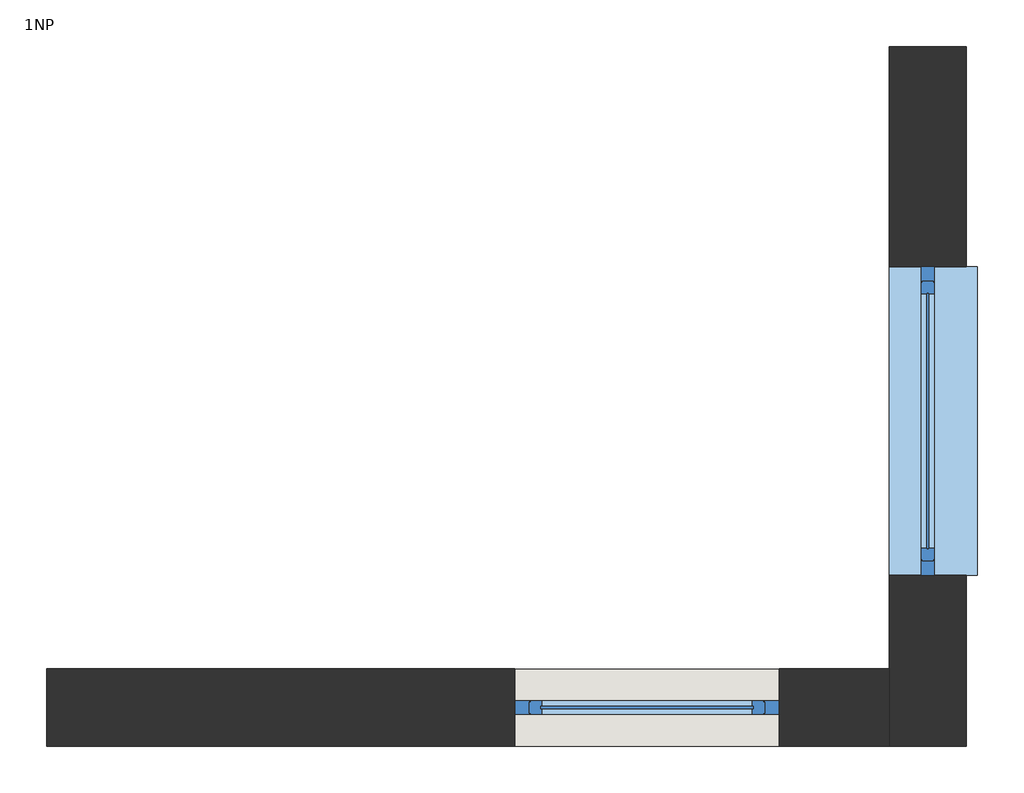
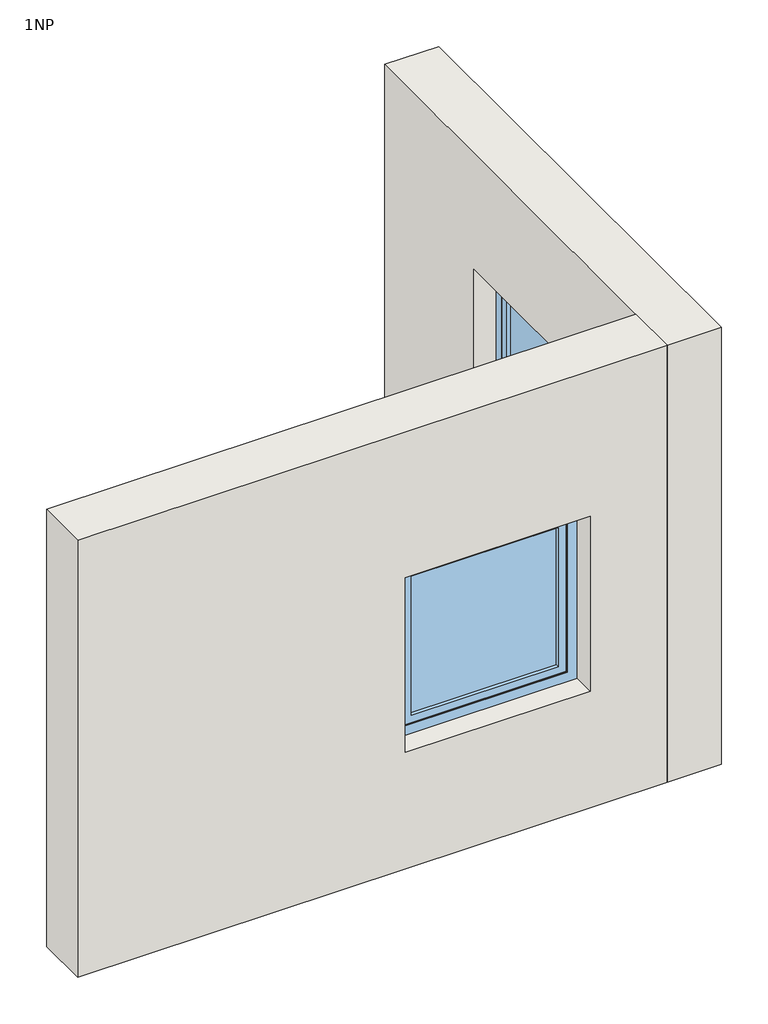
# One storey: 2 walls, 2 windows.
"""IFC4 building model written with IfcOpenShell, lengths in millimetres."""

import ifcopenshell
import ifcopenshell.guid

model = None  # the IFC model being written
_history = None  # IfcOwnerHistory: only IFC2X3 demands one
_inside = {}  # id of a spatial element -> (the spatial element, [elements in it])
_under = {}  # id of a project, library or spatial element -> (it, [spatial elements below it])
_declared = {}  # id of a project -> (the project, [libraries it declares])
_typed = {}  # id of a type object -> (the type object, [elements of that type])
_made_of = {}  # id of a material, layer set ... -> (it, [elements and type objects made of it])


def new_model(schema):
    """Start an empty IFC model of exactly this schema.

    Asked for "IFC4X3", IfcOpenShell would pick the latest addendum, in which some entities
    have other attributes; the version numbers below select the first issue.
    IFC2X3 requires an IfcOwnerHistory on every rooted entity: one is made here for all.
    """
    global model, _history
    if schema == "IFC4X3":
        model = ifcopenshell.file(schema_version=(4, 3, 0, 0))
    else:
        model = ifcopenshell.file(schema=schema)
    _inside.clear()
    _under.clear()
    _declared.clear()
    _typed.clear()
    _made_of.clear()
    _history = None
    if model.schema == "IFC2X3":
        org = make("IfcOrganization", Name="unknown")
        user = make(
            "IfcPersonAndOrganization",
            ThePerson=make("IfcPerson", FamilyName="unknown"),
            TheOrganization=org,
        )
        app = make(
            "IfcApplication",
            ApplicationDeveloper=org,
            Version="unknown",
            ApplicationFullName="unknown",
            ApplicationIdentifier="unknown",
        )
        _history = make(
            "IfcOwnerHistory",
            OwningUser=user,
            OwningApplication=app,
            ChangeAction="ADDED",
            CreationDate=0,
        )
    return model


def make(cls, **values):
    """One entity of the class cls with the attributes given. An attribute that is None is left unset."""
    return model.create_entity(
        cls, **{name: value for name, value in values.items() if value is not None}
    )


def rooted(cls, **values):
    """An entity with a GlobalId (a new one), such as an element, a storey or a relation."""
    return make(cls, GlobalId=ifcopenshell.guid.new(), OwnerHistory=_history, **values)


def si_unit(unit_type, name, prefix=None):
    """IfcSIUnit, for example si_unit("LENGTHUNIT", "METRE", prefix="MILLI")."""
    return make("IfcSIUnit", UnitType=unit_type, Prefix=prefix, Name=name)


def assignment(units):
    """IfcUnitAssignment: the units of a project."""
    return None if units is None else make("IfcUnitAssignment", Units=units)


def point(xyz):
    """IfcCartesianPoint."""
    return None if xyz is None else make("IfcCartesianPoint", Coordinates=xyz)


def direction(xyz):
    """IfcDirection."""
    return None if xyz is None else make("IfcDirection", DirectionRatios=xyz)


def frame(location, z_axis=None, x_axis=None):
    """IfcAxis2Placement3D, a coordinate frame: its origin and axes. An axis left out is left unset."""
    return make(
        "IfcAxis2Placement3D",
        Location=point(location),
        Axis=direction(z_axis),
        RefDirection=direction(x_axis),
    )


def origin():
    """The frame at (0, 0, 0) with its axes left unset."""
    return frame((0.0, 0.0, 0.0))


def place(relative_to, where):
    """IfcLocalPlacement: puts the frame where relative to a parent placement (None: the world)."""
    return make(
        "IfcLocalPlacement", PlacementRelTo=relative_to, RelativePlacement=where
    )


def context(
    kind, dimensions, precision=None, world=None, true_north=None, identifier=None
):
    """IfcGeometricRepresentationContext, for example the 3D "Model" context."""
    return make(
        "IfcGeometricRepresentationContext",
        ContextIdentifier=identifier,
        ContextType=kind,
        CoordinateSpaceDimension=dimensions,
        Precision=precision,
        WorldCoordinateSystem=world,
        TrueNorth=true_north,
    )


def project(units=None, contexts=None):
    """IfcProject with its units and contexts."""
    return rooted(
        "IfcProject",
        Name="project",
        RepresentationContexts=contexts,
        UnitsInContext=assignment(units),
    )


def spatial(cls, under=None, at=None, **own):
    """A site, building, storey or space (cls), placed at a placement, below another one or the project."""
    s = rooted(cls, ObjectPlacement=at, **own)
    if under is not None:
        _under.setdefault(under.id(), (under, []))[1].append(s)
    return s


def polyline(points):
    """IfcPolyline through the points."""
    return make("IfcPolyline", Points=[point(p) for p in points])


def outline(outer, holes=None, kind="AREA"):
    """IfcArbitraryClosedProfileDef: a profile drawn as a closed curve; with holes, ...WithVoids."""
    if holes is None:
        return make("IfcArbitraryClosedProfileDef", ProfileType=kind, OuterCurve=outer)
    return make(
        "IfcArbitraryProfileDefWithVoids",
        ProfileType=kind,
        OuterCurve=outer,
        InnerCurves=holes,
    )


def extrude(swept, where, along, depth):
    """IfcExtrudedAreaSolid: the profile swept, set in the frame where, extruded along a direction by depth."""
    return make(
        "IfcExtrudedAreaSolid",
        SweptArea=swept,
        Position=where,
        ExtrudedDirection=direction(along),
        Depth=depth,
    )


def faces_of(points, faces, orient=None, outer=None):
    """IfcFace entities. A face is a list of loops; a loop is a list of indices into points, from 0.

    orient and outer hold one flag for each loop. By default every Orientation is true, the
    first loop of a face is its IfcFaceOuterBound and the others are IfcFaceBound.
    """
    made = []
    for i, loops in enumerate(faces):
        bounds = []
        for j, loop in enumerate(loops):
            is_outer = j == 0 if outer is None else outer[i][j]
            bounds.append(
                make(
                    "IfcFaceOuterBound" if is_outer else "IfcFaceBound",
                    Bound=make("IfcPolyLoop", Polygon=[points[k] for k in loop]),
                    Orientation=True if orient is None else orient[i][j],
                )
            )
        made.append(make("IfcFace", Bounds=bounds))
    return made


def faceted_brep(points, faces, orient=None, outer=None, voids=None):
    """IfcFacetedBrep: a solid bounded by flat faces; with voids (closed shells), ...WithVoids."""
    shared = [point(p) for p in points]
    hull = make("IfcClosedShell", CfsFaces=faces_of(shared, faces, orient, outer))
    if voids is None:
        return make("IfcFacetedBrep", Outer=hull)
    return make(
        "IfcFacetedBrepWithVoids",
        Outer=hull,
        Voids=[
            make(cls, CfsFaces=faces_of(shared, fs, o, b)) for cls, fs, o, b in voids
        ],
    )


def shape(context_of_items, identifier, shape_type, items):
    """IfcShapeRepresentation: the items that make up one representation, for example the "Body"."""
    return make(
        "IfcShapeRepresentation",
        ContextOfItems=context_of_items,
        RepresentationIdentifier=identifier,
        RepresentationType=shape_type,
        Items=items,
    )


def source(mapping_origin, context_of_items, identifier, shape_type, items):
    """IfcRepresentationMap: a shape defined once, which mapped items show again and again."""
    return make(
        "IfcRepresentationMap",
        MappingOrigin=mapping_origin,
        MappedRepresentation=shape(context_of_items, identifier, shape_type, items),
    )


def transform(
    local_origin,
    x_axis=None,
    y_axis=None,
    z_axis=None,
    scale=None,
    scale2=None,
    scale3=None,
    uniform=True,
):
    """IfcCartesianTransformationOperator3D, or its non-uniform kind. x_axis, y_axis, z_axis: its Axis1, 2, 3."""
    if uniform:
        return make(
            "IfcCartesianTransformationOperator3D",
            Axis1=direction(x_axis),
            Axis2=direction(y_axis),
            LocalOrigin=point(local_origin),
            Scale=scale,
            Axis3=direction(z_axis),
        )
    return make(
        "IfcCartesianTransformationOperator3DnonUniform",
        Axis1=direction(x_axis),
        Axis2=direction(y_axis),
        LocalOrigin=point(local_origin),
        Scale=scale,
        Axis3=direction(z_axis),
        Scale2=scale2,
        Scale3=scale3,
    )


def mapped(mapping_source, mapping_target):
    """IfcMappedItem: shows the shape of a source again, moved by a transform."""
    return make(
        "IfcMappedItem", MappingSource=mapping_source, MappingTarget=mapping_target
    )


def made_of(thing, what):
    """Note that an element or type object is made of a material, layer set ...; save() writes the relation."""
    if what is not None:
        _made_of.setdefault(what.id(), (what, []))[1].append(thing)
    return thing


def element(
    cls,
    number,
    at=None,
    inside=None,
    cuts=None,
    type_object=None,
    material=None,
    context=None,
    identifier="Body",
    shape_type=None,
    held_by="IfcProductDefinitionShape",
    body=None,
    shapes=None,
    **own,
):
    """One element of the class cls, such as IfcWall. Its Tag is "e" and its number.

    at: its placement. inside: the storey or other place that contains it. cuts: it is an
    opening in that element (IfcRelVoidsElement). A single representation is given by context,
    identifier, shape_type and body (its items); several are given by shapes. held_by: the class
    of the entity that holds the representations. save() writes the other relations.
    """
    e = rooted(cls, Tag="e%d" % number, ObjectPlacement=at, **own)
    if body is not None:
        shapes = [shape(context, identifier, shape_type, body)]
    if shapes is not None:
        e.Representation = make(held_by, Representations=shapes)
    if inside is not None:
        _inside.setdefault(inside.id(), (inside, []))[1].append(e)
    if cuts is not None:
        rooted(
            "IfcRelVoidsElement", RelatingBuildingElement=cuts, RelatedOpeningElement=e
        )
    if type_object is not None:
        _typed.setdefault(type_object.id(), (type_object, []))[1].append(e)
    return made_of(e, material)


def aggregate(whole, parts):
    """IfcRelAggregates: a whole, such as a stair, and the parts it consists of."""
    return rooted("IfcRelAggregates", RelatingObject=whole, RelatedObjects=parts)


def save(model, path):
    """Write the relations noted so far, then the file.

    IfcRelAggregates (storeys below a building ...), IfcRelContainedInSpatialStructure (elements
    in a storey), IfcRelDefinesByType, IfcRelAssociatesMaterial and IfcRelDeclares: one each for
    every whole, place, type object, material and project.
    """
    for whole, parts in _under.values():
        aggregate(whole, parts)
    for where, things in _inside.values():
        rooted(
            "IfcRelContainedInSpatialStructure",
            RelatedElements=things,
            RelatingStructure=where,
        )
    for kind, things in _typed.values():
        rooted("IfcRelDefinesByType", RelatedObjects=things, RelatingType=kind)
    for what, things in _made_of.values():
        rooted("IfcRelAssociatesMaterial", RelatedObjects=things, RelatingMaterial=what)
    for by, libraries in _declared.values():
        rooted("IfcRelDeclares", RelatingContext=by, RelatedDefinitions=libraries)
    model.write(path)


def unit_16_window_1200_x_1200mm_45bc6662(model_context):
    return source(origin(), model_context, "Body", "SolidModel", [
        extrude(outline(polyline([(482.4540566, 5.0), (482.4540566, -5.0), (-482.4540566, -5.0), (-482.4540566, 5.0), (482.4540566, 5.0)])), frame((0.0, 0.0, 917.5459434), z_axis=(0.0, 0.0, 1.0), x_axis=(1.0, 0.0, 0.0)), (0.0, 0.0, 1.0), 964.9081133),
        faceted_brep([(-527.4540566, 30.0, 1927.4540566), (-527.4540566, 25.0, 1927.4540566), (527.4540566, 25.0, 1927.4540566), (527.4540566, 30.0, 1927.4540566), (-477.4540566, 5.0, 1877.4540566), (-477.4540566, 30.0, 1877.4540566), (477.4540566, 30.0, 1877.4540566), (477.4540566, 5.0, 1877.4540566), (-482.4540566, -5.0, 1882.4540566), (-482.4540566, 5.0, 1882.4540566), (482.4540566, 5.0, 1882.4540566), (482.4540566, -5.0, 1882.4540566), (-477.4540566, -30.0, 1877.4540566), (-477.4540566, -5.0, 1877.4540566), (477.4540566, -5.0, 1877.4540566), (477.4540566, -30.0, 1877.4540566), (-527.4540566, -25.0, 1927.4540566), (-527.4540566, -30.0, 1927.4540566), (527.4540566, -30.0, 1927.4540566), (527.4540566, -25.0, 1927.4540566), (-534.8200453, 25.0, 1934.8200453), (-534.8200453, -25.0, 1934.8200453), (534.8200453, -25.0, 1934.8200453), (534.8200453, 25.0, 1934.8200453), (527.4540566, 25.0, 872.5459434), (527.4540566, 30.0, 872.5459434), (477.4540566, 30.0, 922.5459434), (477.4540566, 5.0, 922.5459434), (482.4540566, 5.0, 917.5459434), (482.4540566, -5.0, 917.5459434), (477.4540566, -5.0, 922.5459434), (477.4540566, -30.0, 922.5459434), (527.4540566, -30.0, 872.5459434), (527.4540566, -25.0, 872.5459434), (534.8200453, -25.0, 865.1799547), (534.8200453, 25.0, 865.1799547), (-527.4540566, 25.0, 872.5459434), (-527.4540566, 30.0, 872.5459434), (-477.4540566, 30.0, 922.5459434), (-477.4540566, 5.0, 922.5459434), (-482.4540566, 5.0, 917.5459434), (-482.4540566, -5.0, 917.5459434), (-477.4540566, -5.0, 922.5459434), (-477.4540566, -30.0, 922.5459434), (-527.4540566, -30.0, 872.5459434), (-527.4540566, -25.0, 872.5459434), (-534.8200453, -25.0, 865.1799547), (-534.8200453, 25.0, 865.1799547)], [[[0, 1, 2, 3]], [[4, 5, 6, 7]], [[8, 9, 10, 11]], [[12, 13, 14, 15]], [[16, 17, 18, 19]], [[20, 21, 22, 23]], [[3, 2, 24, 25]], [[7, 6, 26, 27]], [[11, 10, 28, 29]], [[15, 14, 30, 31]], [[19, 18, 32, 33]], [[23, 22, 34, 35]], [[25, 24, 36, 37]], [[27, 26, 38, 39]], [[29, 28, 40, 41]], [[31, 30, 42, 43]], [[33, 32, 44, 45]], [[35, 34, 46, 47]], [[37, 36, 1, 0]], [[3, 25, 37, 0], [5, 38, 26, 6]], [[39, 38, 5, 4]], [[9, 40, 28, 10], [7, 27, 39, 4]], [[41, 40, 9, 8]], [[11, 29, 41, 8], [13, 42, 30, 14]], [[43, 42, 13, 12]], [[17, 44, 32, 18], [15, 31, 43, 12]], [[45, 44, 17, 16]], [[21, 46, 34, 22], [19, 33, 45, 16]], [[47, 46, 21, 20]], [[23, 35, 47, 20], [1, 36, 24, 2]]]),
        extrude(outline(polyline([(2000.0, -600.0), (800.0, -600.0), (800.0, 600.0), (2000.0, 600.0), (2000.0, -600.0)]), holes=[polyline([(1934.8200453, 534.8200453), (865.1799547, 534.8200453), (865.1799547, -534.8200453), (1934.8200453, -534.8200453), (1934.8200453, 534.8200453)])]), frame((0.0, -30.0, 0.0), z_axis=(0.0, 1.0, 0.0), x_axis=(0.0, 0.0, 1.0)), (0.0, 0.0, 1.0), 60.0),
    ])


def unit_16_window_1400_x_1400mm_be93e3aa(model_context):
    return source(origin(), model_context, "Body", "SolidModel", [
        faceted_brep([(-627.4540566, 30.0, 2127.4540566), (-627.4540566, 25.0, 2127.4540566), (627.4540566, 25.0, 2127.4540566), (627.4540566, 30.0, 2127.4540566), (-577.4540566, 5.0, 2077.4540566), (-577.4540566, 30.0, 2077.4540566), (577.4540566, 30.0, 2077.4540566), (577.4540566, 5.0, 2077.4540566), (-582.4540566, -5.0, 2082.4540566), (-582.4540566, 5.0, 2082.4540566), (582.4540566, 5.0, 2082.4540566), (582.4540566, -5.0, 2082.4540566), (-577.4540566, -30.0, 2077.4540566), (-577.4540566, -5.0, 2077.4540566), (577.4540566, -5.0, 2077.4540566), (577.4540566, -30.0, 2077.4540566), (-627.4540566, -25.0, 2127.4540566), (-627.4540566, -30.0, 2127.4540566), (627.4540566, -30.0, 2127.4540566), (627.4540566, -25.0, 2127.4540566), (-634.8200453, 25.0, 2134.8200453), (-634.8200453, -25.0, 2134.8200453), (634.8200453, -25.0, 2134.8200453), (634.8200453, 25.0, 2134.8200453), (627.4540566, 25.0, 972.5459434), (627.4540566, 30.0, 972.5459434), (577.4540566, 30.0, 1022.5459434), (577.4540566, 5.0, 1022.5459434), (582.4540566, 5.0, 1017.5459434), (582.4540566, -5.0, 1017.5459434), (577.4540566, -5.0, 1022.5459434), (577.4540566, -30.0, 1022.5459434), (627.4540566, -30.0, 972.5459434), (627.4540566, -25.0, 972.5459434), (634.8200453, -25.0, 965.1799547), (634.8200453, 25.0, 965.1799547), (-627.4540566, 25.0, 972.5459434), (-627.4540566, 30.0, 972.5459434), (-577.4540566, 30.0, 1022.5459434), (-577.4540566, 5.0, 1022.5459434), (-582.4540566, 5.0, 1017.5459434), (-582.4540566, -5.0, 1017.5459434), (-577.4540566, -5.0, 1022.5459434), (-577.4540566, -30.0, 1022.5459434), (-627.4540566, -30.0, 972.5459434), (-627.4540566, -25.0, 972.5459434), (-634.8200453, -25.0, 965.1799547), (-634.8200453, 25.0, 965.1799547)], [[[0, 1, 2, 3]], [[4, 5, 6, 7]], [[8, 9, 10, 11]], [[12, 13, 14, 15]], [[16, 17, 18, 19]], [[20, 21, 22, 23]], [[3, 2, 24, 25]], [[7, 6, 26, 27]], [[11, 10, 28, 29]], [[15, 14, 30, 31]], [[19, 18, 32, 33]], [[23, 22, 34, 35]], [[25, 24, 36, 37]], [[27, 26, 38, 39]], [[29, 28, 40, 41]], [[31, 30, 42, 43]], [[33, 32, 44, 45]], [[35, 34, 46, 47]], [[37, 36, 1, 0]], [[3, 25, 37, 0], [5, 38, 26, 6]], [[39, 38, 5, 4]], [[9, 40, 28, 10], [7, 27, 39, 4]], [[41, 40, 9, 8]], [[11, 29, 41, 8], [13, 42, 30, 14]], [[43, 42, 13, 12]], [[17, 44, 32, 18], [15, 31, 43, 12]], [[45, 44, 17, 16]], [[21, 46, 34, 22], [19, 33, 45, 16]], [[47, 46, 21, 20]], [[23, 35, 47, 20], [1, 36, 24, 2]]]),
        extrude(outline(polyline([(2200.0, -700.0), (900.0, -700.0), (900.0, 700.0), (2200.0, 700.0), (2200.0, -700.0)]), holes=[polyline([(2134.8200453, 634.8200453), (965.1799547, 634.8200453), (965.1799547, -634.8200453), (2134.8200453, -634.8200453), (2134.8200453, 634.8200453)])]), frame((0.0, -30.0, 0.0), z_axis=(0.0, 1.0, 0.0), x_axis=(0.0, 0.0, 1.0)), (0.0, 0.0, 1.0), 60.0),
        extrude(outline(polyline([(840.0, 175.0), (-840.0, 175.0), (-840.0, 195.0), (840.0, 195.0), (840.0, 175.0)])), frame((0.0, 0.0, 2200.0), z_axis=(0.0, 0.0, 1.0), x_axis=(1.0, 0.0, 0.0)), (0.0, 0.0, 1.0), 180.0),
        extrude(outline(polyline([(582.4540566, 5.0), (582.4540566, -5.0), (-582.4540566, -5.0), (-582.4540566, 5.0), (582.4540566, 5.0)])), frame((0.0, 0.0, 1017.5459434), z_axis=(0.0, 0.0, 1.0), x_axis=(1.0, 0.0, 0.0)), (0.0, 0.0, 1.0), 1064.9081133),
        extrude(outline(polyline([(700.0, 225.0), (700.0, -175.0), (-700.0, -175.0), (-700.0, 225.0), (700.0, 225.0)])), frame((0.0, 0.0, 800.0), z_axis=(0.0, 0.0, 1.0), x_axis=(1.0, 0.0, 0.0)), (0.0, 0.0, 1.0), 100.0),
    ])


model = new_model("IFC4")

# Units and contexts
model_context = context("Model", 3, world=origin())
ifc_project = project(units=[si_unit("LENGTHUNIT", "METRE", prefix="MILLI")], contexts=[model_context])

# Site, building, storey
site = spatial("IfcSite", under=ifc_project)
building = spatial("IfcBuilding", under=site)
storey = spatial("IfcBuildingStorey", under=building, Name="1NP", Elevation=0.0)

# Walls
placement = place(None, origin())
element("IfcWall", 1, ObjectType="Exterior - Brick on Mtl. Stud", at=placement, inside=storey, context=model_context, shape_type="SweptSolid", body=[
    extrude(outline(polyline([(0.0, 265.0823573), (3000.0, 265.0823573), (3000.0, -3559.9176427), (0.0, -3559.9176427), (0.0, 265.0823573)]), holes=[polyline([(800.0, -234.9176427), (800.0, -1434.9176427), (2000.0, -1434.9176427), (2000.0, -234.9176427), (800.0, -234.9176427)])]), frame((0.0, 485.8832827, 0.0), z_axis=(0.0, 1.0, 0.0), x_axis=(0.0, 0.0, 1.0)), (0.0, 0.0, 1.0), 350.0),
])
element("IfcWall", 2, ObjectType="Exterior - Brick on Mtl. Stud", at=placement, inside=storey, context=model_context, shape_type="Brep", body=[
    faceted_brep([(265.0823573, 3660.8832827, 0.0), (265.0823573, 835.8832827, 0.0), (265.0823573, 485.8832827, 0.0), (265.0823573, 485.8832827, 3000.0), (265.0823573, 835.8832827, 3000.0), (265.0823573, 3660.8832827, 3000.0), (265.0823573, 2660.8832827, 800.0), (265.0823573, 2660.8832827, 2200.0), (265.0823573, 1260.8832827, 2200.0), (265.0823573, 1260.8832827, 800.0), (615.0823573, 3660.8832827, 0.0), (615.0823573, 3660.8832827, 3000.0), (615.0823573, 485.8832827, 3000.0), (615.0823573, 485.8832827, 0.0), (615.0823573, 2660.8832827, 800.0), (615.0823573, 1260.8832827, 800.0), (615.0823573, 1260.8832827, 2200.0), (615.0823573, 2660.8832827, 2200.0)], [[[0, 1, 2, 3, 4, 5], [6, 7, 8, 9]], [[10, 11, 12, 13], [14, 15, 16, 17]], [[2, 1, 0, 10, 13]], [[5, 4, 3, 12, 11]], [[0, 5, 11, 10]], [[3, 2, 13, 12]], [[7, 6, 14, 17]], [[8, 7, 17, 16]], [[9, 8, 16, 15]], [[6, 9, 15, 14]]]),
])

# Windows
unit_16_window_1200_x_1200mm_shape = unit_16_window_1200_x_1200mm_45bc6662(model_context)
element("IfcWindow", 3, ObjectType="Unit 16 Window : 1200 x 1200mm", at=placement, inside=storey, context=model_context, shape_type="MappedRepresentation", body=[
    mapped(unit_16_window_1200_x_1200mm_shape, transform((-834.9176427, 660.8832827, 0.0), x_axis=(-0.9999999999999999, 0.0, 0.0), y_axis=(0.0, -0.9999999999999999, 0.0), z_axis=(0.0, 0.0, 1.0))),
])
unit_16_window_1400_x_1400mm_shape = unit_16_window_1400_x_1400mm_be93e3aa(model_context)
element("IfcWindow", 4, ObjectType="Unit 16 Window : 1400 x 1400mm", at=placement, inside=storey, context=model_context, shape_type="MappedRepresentation", body=[
    mapped(unit_16_window_1400_x_1400mm_shape, transform((440.0823573, 1960.8832827, 0.0), x_axis=(0.0, -1.0, 0.0), y_axis=(1.0, 0.0, 0.0), z_axis=(0.0, 0.0, 1.0))),
])

save(model, "model.ifc")
